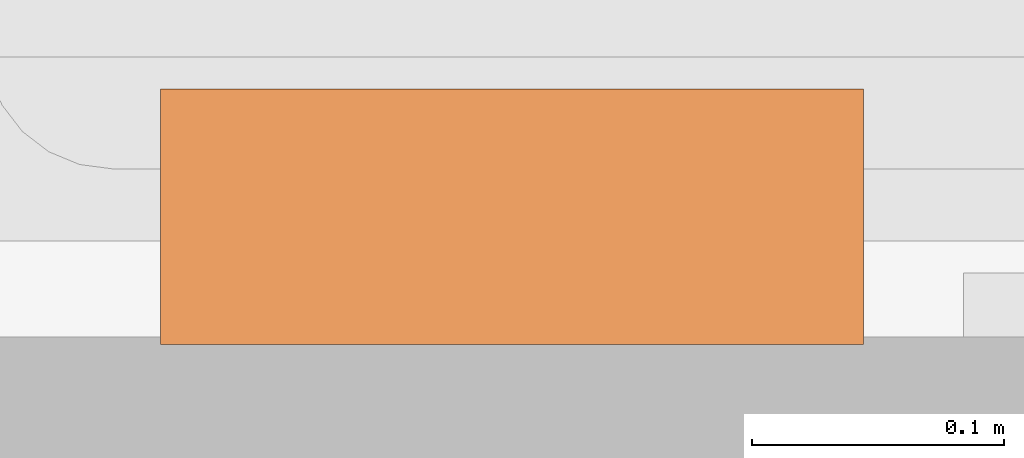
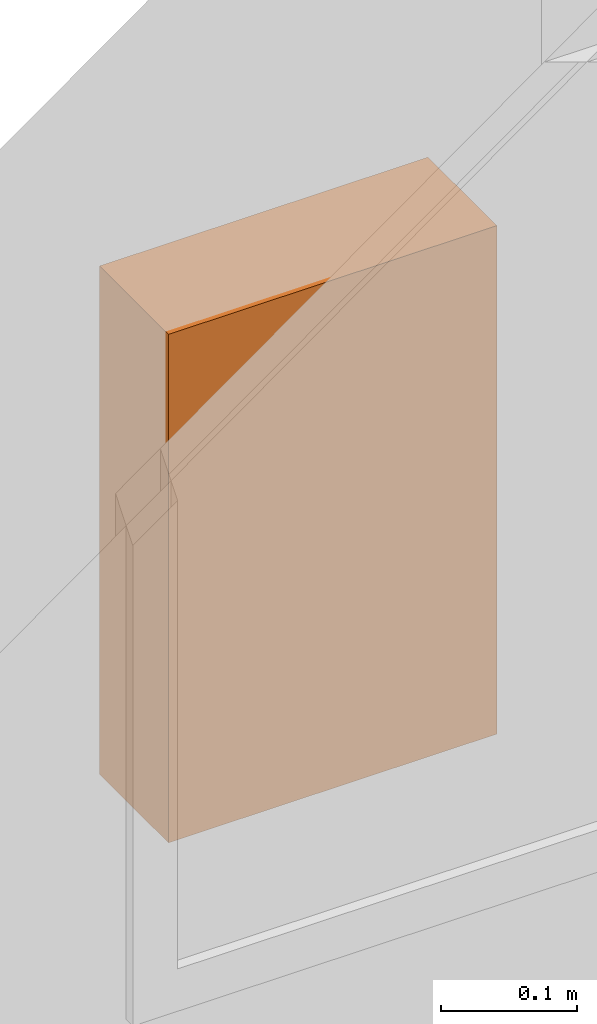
# One storey, part 123 of 142: 1 proxy.
"""IFC2X3 building model written with IfcOpenShell, lengths in feet."""

from ifc_helpers import new_model, entity, si_unit, converted_unit, derived_unit, direction, frame, frame_2d, origin, place, context, subcontext, project, spatial, rectangle, extrude, source, transform, mapped, type_object, type_shapes, element, save


model = new_model("IFC2X3")

# Units and contexts
model_context = context("Model", 3, precision=0.0001, world=origin(), true_north=direction((6.12303176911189e-17, 1.0)))
body_context = subcontext(model_context, "Body", "Model", "MODEL_VIEW")
ifc_project = project(units=[converted_unit("LENGTHUNIT", "FOOT", entity("IfcRatioMeasure", 0.3048), si_unit("LENGTHUNIT", "METRE"), dimensions=[1, 0, 0, 0, 0, 0, 0]), converted_unit("AREAUNIT", "SQUARE FOOT", entity("IfcRatioMeasure", 0.09290304), si_unit("AREAUNIT", "SQUARE_METRE"), dimensions=[2, 0, 0, 0, 0, 0, 0]), converted_unit("VOLUMEUNIT", "CUBIC FOOT", entity("IfcRatioMeasure", 0.028316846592), si_unit("VOLUMEUNIT", "CUBIC_METRE"), dimensions=[3, 0, 0, 0, 0, 0, 0]), converted_unit("PLANEANGLEUNIT", "DEGREE", entity("IfcRatioMeasure", 0.0174532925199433), si_unit("PLANEANGLEUNIT", "RADIAN"), dimensions=[0, 0, 0, 0, 0, 0, 0]), si_unit("MASSUNIT", "GRAM", prefix="KILO"), derived_unit("MASSDENSITYUNIT", [(si_unit("MASSUNIT", "GRAM", prefix="KILO"), 1), (si_unit("LENGTHUNIT", "METRE"), -3)]), si_unit("TIMEUNIT", "SECOND"), si_unit("FREQUENCYUNIT", "HERTZ"), si_unit("THERMODYNAMICTEMPERATUREUNIT", "DEGREE_CELSIUS"), derived_unit("THERMALTRANSMITTANCEUNIT", [(si_unit("MASSUNIT", "GRAM", prefix="KILO"), 1), (si_unit("THERMODYNAMICTEMPERATUREUNIT", "KELVIN"), -1), (si_unit("TIMEUNIT", "SECOND"), -3)]), derived_unit("VOLUMETRICFLOWRATEUNIT", [(si_unit("LENGTHUNIT", "METRE"), 3), (si_unit("TIMEUNIT", "SECOND"), -1)]), si_unit("ELECTRICCURRENTUNIT", "AMPERE"), si_unit("ELECTRICVOLTAGEUNIT", "VOLT"), si_unit("POWERUNIT", "WATT"), si_unit("FORCEUNIT", "NEWTON"), si_unit("ILLUMINANCEUNIT", "LUX"), si_unit("LUMINOUSFLUXUNIT", "LUMEN"), si_unit("LUMINOUSINTENSITYUNIT", "CANDELA"), derived_unit("USERDEFINED", [(si_unit("MASSUNIT", "GRAM", prefix="KILO"), -1), (si_unit("LENGTHUNIT", "METRE"), -2), (si_unit("TIMEUNIT", "SECOND"), 3), (si_unit("LUMINOUSFLUXUNIT", "LUMEN"), 1)]), derived_unit("LINEARVELOCITYUNIT", [(si_unit("LENGTHUNIT", "METRE"), 1), (si_unit("TIMEUNIT", "SECOND"), -1)]), si_unit("PRESSUREUNIT", "PASCAL"), derived_unit("USERDEFINED", [(si_unit("LENGTHUNIT", "METRE"), -2), (si_unit("MASSUNIT", "GRAM", prefix="KILO"), 1), (si_unit("TIMEUNIT", "SECOND"), -2)])], contexts=[model_context])

# Site, building, storey, space
site_placement = place(None, origin())
site = spatial("IfcSite", under=ifc_project, at=site_placement, Name="Default", CompositionType="ELEMENT")
building_placement = place(site_placement, origin())
building = spatial("IfcBuilding", under=site, at=building_placement, Name="OUTPATIENT / PACT CLINIC (Ch. 265)", CompositionType="ELEMENT")
storey_placement = place(building_placement, origin())
storey = spatial("IfcBuildingStorey", under=building, at=storey_placement, Name="LEVEL 1", CompositionType="ELEMENT", Elevation=0.0)
space_placement = place(storey_placement, origin())
space = spatial("IfcSpace", under=storey, at=space_placement, Name="EXPA01", CompositionType="ELEMENT", InteriorOrExteriorSpace="INTERNAL")

# Proxy
building_element_proxy_type = type_object("IfcBuildingElementProxyType", Name="A5107 - Dispenser, Glove, Surgical-Examination, Wall Mntd 10\"x 4\"", PredefinedType="NOTDEFINED")
shared_shape = source(origin(), body_context, "Body", "SweptSolid", [
    extrude(rectangle(XDim=0.333333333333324, YDim=0.916666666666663, at=frame_2d((-1.38777878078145e-17, 0.0), x_axis=(1.0, 0.0))), frame((0.0, 0.166666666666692, 0.0), z_axis=(0.0, 0.0, 1.0), x_axis=(0.0, 1.0, 0.0)), (0.0, 0.0, 1.0), 1.5),
])
type_shapes(building_element_proxy_type, [shared_shape])
proxy_placement = place(space_placement, frame((396.364351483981, -886.430264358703, 4.0)))
element("IfcBuildingElementProxy", 1, at=proxy_placement, inside=space, type_object=building_element_proxy_type, Name="A5107 - Dispenser, Glove, Surgical-Examination, Wall Mntd1:A5107 - Dispenser, Glove, Surgical-Examination, Wall Mntd 10\"x 4\"", ObjectType="A5107 - Dispenser, Glove, Surgical-Examination, Wall Mntd 10\"x 4\"", context=body_context, shape_type="MappedRepresentation", body=[
    mapped(shared_shape, transform((0.0, 0.0, 0.0), scale=1.0)),
])

save(model, "model.ifc")
